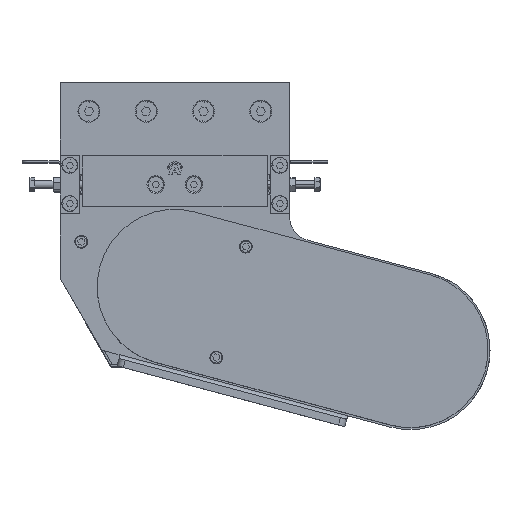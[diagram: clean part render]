
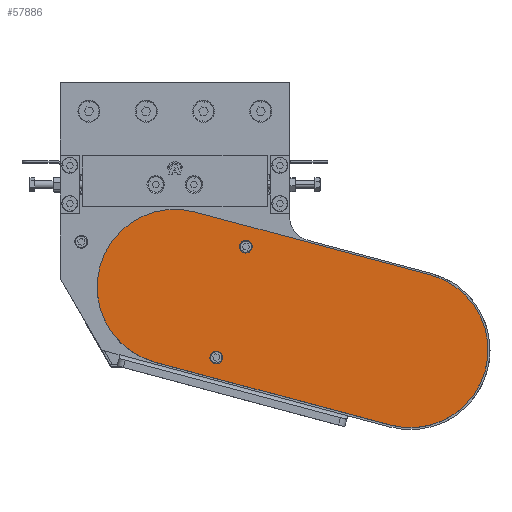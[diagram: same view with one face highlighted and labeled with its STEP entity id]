
A CAD part, top view. The second image highlights one B-rep face of the part: STEP entity #57886.
In plain terms, the highlighted planar face has unit normal (0, 0, 1) as drawn and (0, 0, -1) by its records, which use the part's own axes.
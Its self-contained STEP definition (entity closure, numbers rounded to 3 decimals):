
#365 = CARTESIAN_POINT ( 'NONE',  ( 61., 191.5, 0. ) ) ;
#3593 = DIRECTION ( 'NONE',  ( 1., 0., 0. ) ) ;
#3839 = DIRECTION ( 'NONE',  ( 0., 0., 1. ) ) ;
#4260 = AXIS2_PLACEMENT_3D ( 'NONE', #43302, #47912, #20412 ) ;
#4463 = EDGE_CURVE ( 'NONE', #35214, #17245, #35667, .T. ) ;
#5624 = LINE ( 'NONE', #46688, #28550 ) ;
#6774 = EDGE_CURVE ( 'NONE', #6872, #20675, #34086, .T. ) ;
#6872 = VERTEX_POINT ( 'NONE', #47889 ) ;
#6934 = ORIENTED_EDGE ( 'NONE', *, *, #51564, .F. ) ;
#8245 = ORIENTED_EDGE ( 'NONE', *, *, #40926, .F. ) ;
#9375 = DIRECTION ( 'NONE',  ( 0., 0., -1. ) ) ;
#9979 = DIRECTION ( 'NONE',  ( 0., -1., 0. ) ) ;
#13205 = CARTESIAN_POINT ( 'NONE',  ( 45., 145.75, 0. ) ) ;
#14555 = VERTEX_POINT ( 'NONE', #35535 ) ;
#15599 = PLANE ( 'NONE',  #4260 ) ;
#16768 = CIRCLE ( 'NONE', #49781, 3.5 ) ;
#17245 = VERTEX_POINT ( 'NONE', #55713 ) ;
#17835 = DIRECTION ( 'NONE',  ( 1., 0., 0. ) ) ;
#19795 = CARTESIAN_POINT ( 'NONE',  ( 45., 145.75, 0. ) ) ;
#20412 = DIRECTION ( 'NONE',  ( 1., 0., 0. ) ) ;
#20430 = AXIS2_PLACEMENT_3D ( 'NONE', #31280, #3839, #35915 ) ;
#20601 = LINE ( 'NONE', #365, #58632 ) ;
#20675 = VERTEX_POINT ( 'NONE', #54748 ) ;
#22153 = ORIENTED_EDGE ( 'NONE', *, *, #37672, .F. ) ;
#22493 = CARTESIAN_POINT ( 'NONE',  ( 0., 191.5, 0. ) ) ;
#23551 = AXIS2_PLACEMENT_3D ( 'NONE', #22493, #54599, #27102 ) ;
#23609 = AXIS2_PLACEMENT_3D ( 'NONE', #13205, #45331, #17835 ) ;
#24397 = DIRECTION ( 'NONE',  ( 1., 0., 0. ) ) ;
#26766 = CIRCLE ( 'NONE', #23609, 3.5 ) ;
#26921 = ORIENTED_EDGE ( 'NONE', *, *, #4463, .F. ) ;
#27102 = DIRECTION ( 'NONE',  ( 1., 0., 0. ) ) ;
#27813 = DIRECTION ( 'NONE',  ( 0., 1., 0. ) ) ;
#28550 = VECTOR ( 'NONE', #9979, 1000. ) ;
#29168 = CIRCLE ( 'NONE', #20430, 61. ) ;
#31054 = DIRECTION ( 'NONE',  ( 0., 0., -1. ) ) ;
#31244 = ORIENTED_EDGE ( 'NONE', *, *, #41993, .F. ) ;
#31280 = CARTESIAN_POINT ( 'NONE',  ( 0., 0., 0. ) ) ;
#32143 = VERTEX_POINT ( 'NONE', #35054 ) ;
#34086 = CIRCLE ( 'NONE', #35908, 3.5 ) ;
#35054 = CARTESIAN_POINT ( 'NONE',  ( -61., 0., 0. ) ) ;
#35214 = VERTEX_POINT ( 'NONE', #58437 ) ;
#35535 = CARTESIAN_POINT ( 'NONE',  ( -48.5, 145.75, 0. ) ) ;
#35667 = CIRCLE ( 'NONE', #23551, 61. ) ;
#35908 = AXIS2_PLACEMENT_3D ( 'NONE', #19795, #51894, #24397 ) ;
#35915 = DIRECTION ( 'NONE',  ( 1., 0., 0. ) ) ;
#36475 = VERTEX_POINT ( 'NONE', #45527 ) ;
#36793 = FACE_OUTER_BOUND ( 'NONE', #42270, .T. ) ;
#36817 = CARTESIAN_POINT ( 'NONE',  ( -45., 145.75, 0. ) ) ;
#37672 = EDGE_CURVE ( 'NONE', #32143, #58778, #29168, .T. ) ;
#38243 = FACE_BOUND ( 'NONE', #58154, .T. ) ;
#40235 = ORIENTED_EDGE ( 'NONE', *, *, #54457, .F. ) ;
#40926 = EDGE_CURVE ( 'NONE', #36475, #14555, #16768, .T. ) ;
#40996 = AXIS2_PLACEMENT_3D ( 'NONE', #58528, #31054, #3593 ) ;
#41443 = DIRECTION ( 'NONE',  ( 1., 0., 0. ) ) ;
#41993 = EDGE_CURVE ( 'NONE', #14555, #36475, #48957, .T. ) ;
#42270 = EDGE_LOOP ( 'NONE', ( #26921, #50471, #22153, #40235 ) ) ;
#43302 = CARTESIAN_POINT ( 'NONE',  ( 0., 191.5, 0. ) ) ;
#44233 = ORIENTED_EDGE ( 'NONE', *, *, #6774, .F. ) ;
#45331 = DIRECTION ( 'NONE',  ( 0., 0., -1. ) ) ;
#45527 = CARTESIAN_POINT ( 'NONE',  ( -41.5, 145.75, 0. ) ) ;
#46688 = CARTESIAN_POINT ( 'NONE',  ( -61., 191.5, 0. ) ) ;
#47889 = CARTESIAN_POINT ( 'NONE',  ( 41.5, 145.75, 0. ) ) ;
#47912 = DIRECTION ( 'NONE',  ( 0., 0., 1. ) ) ;
#48037 = EDGE_CURVE ( 'NONE', #58778, #35214, #20601, .T. ) ;
#48957 = CIRCLE ( 'NONE', #40996, 3.5 ) ;
#48992 = FACE_BOUND ( 'NONE', #50322, .T. ) ;
#49781 = AXIS2_PLACEMENT_3D ( 'NONE', #36817, #9375, #41443 ) ;
#50322 = EDGE_LOOP ( 'NONE', ( #8245, #31244 ) ) ;
#50471 = ORIENTED_EDGE ( 'NONE', *, *, #48037, .F. ) ;
#51564 = EDGE_CURVE ( 'NONE', #20675, #6872, #26766, .T. ) ;
#51894 = DIRECTION ( 'NONE',  ( 0., 0., -1. ) ) ;
#52294 = CARTESIAN_POINT ( 'NONE',  ( 61., 0., 0. ) ) ;
#54457 = EDGE_CURVE ( 'NONE', #17245, #32143, #5624, .T. ) ;
#54599 = DIRECTION ( 'NONE',  ( 0., 0., 1. ) ) ;
#54748 = CARTESIAN_POINT ( 'NONE',  ( 48.5, 145.75, 0. ) ) ;
#55713 = CARTESIAN_POINT ( 'NONE',  ( -61., 191.5, 0. ) ) ;
#57886 = ADVANCED_FACE ( 'NONE', ( #48992, #38243, #36793 ), #15599, .F. ) ;
#58154 = EDGE_LOOP ( 'NONE', ( #6934, #44233 ) ) ;
#58437 = CARTESIAN_POINT ( 'NONE',  ( 61., 191.5, 0. ) ) ;
#58528 = CARTESIAN_POINT ( 'NONE',  ( -45., 145.75, 0. ) ) ;
#58632 = VECTOR ( 'NONE', #27813, 1000. ) ;
#58778 = VERTEX_POINT ( 'NONE', #52294 ) ;
